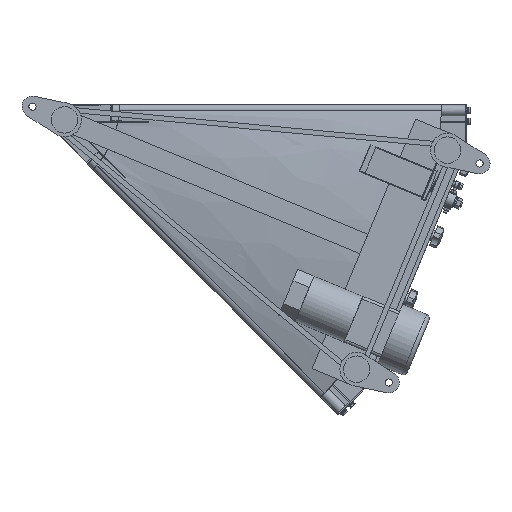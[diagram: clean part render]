
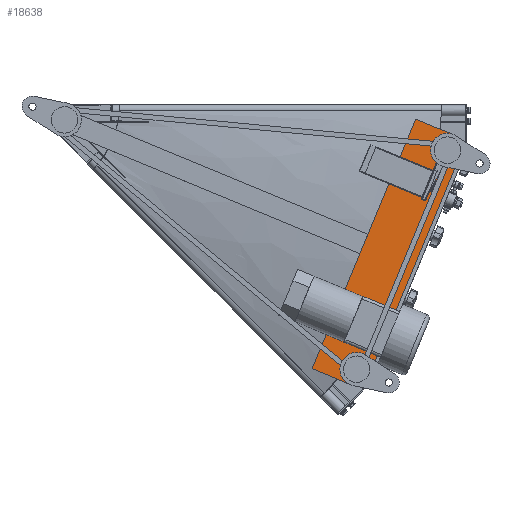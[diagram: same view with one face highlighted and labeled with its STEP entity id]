
A CAD part, front view. The second image highlights one B-rep face of the part: STEP entity #18638.
In plain terms, the highlighted planar face has unit normal (0, -1, 0).
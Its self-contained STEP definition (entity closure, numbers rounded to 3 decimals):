
#230 = CARTESIAN_POINT ( 'NONE',  ( 782.749, -167.5, -91.511 ) ) ;
#690 = DIRECTION ( 'NONE',  ( 0.078, 0., 0.997 ) ) ;
#2079 = VECTOR ( 'NONE', #21899, 1000. ) ;
#2538 = ORIENTED_EDGE ( 'NONE', *, *, #26295, .F. ) ;
#2904 = VECTOR ( 'NONE', #13201, 1000. ) ;
#2914 = DIRECTION ( 'NONE',  ( -0.924, 0., -0.383 ) ) ;
#3130 = ORIENTED_EDGE ( 'NONE', *, *, #16874, .F. ) ;
#3579 = CARTESIAN_POINT ( 'NONE',  ( 782.749, -167.5, -91.511 ) ) ;
#3742 = AXIS2_PLACEMENT_3D ( 'NONE', #28075, #25916, #690 ) ;
#4200 = CARTESIAN_POINT ( 'NONE',  ( 766.513, -167.5, -52.314 ) ) ;
#4903 = VECTOR ( 'NONE', #27172, 1000. ) ;
#6735 = CARTESIAN_POINT ( 'NONE',  ( 514.326, -167.5, -478.227 ) ) ;
#7447 = VERTEX_POINT ( 'NONE', #31757 ) ;
#7615 = PLANE ( 'NONE',  #3742 ) ;
#8625 = VECTOR ( 'NONE', #2914, 1000. ) ;
#10746 = FACE_OUTER_BOUND ( 'NONE', #28760, .T. ) ;
#11209 = LINE ( 'NONE', #23141, #18339 ) ;
#11627 = LINE ( 'NONE', #6735, #4903 ) ;
#12096 = VECTOR ( 'NONE', #25422, 1000. ) ;
#12382 = VERTEX_POINT ( 'NONE', #3579 ) ;
#12949 = EDGE_CURVE ( 'NONE', #30683, #26341, #32516, .T. ) ;
#13080 = CARTESIAN_POINT ( 'NONE',  ( 578.998, -167.5, -505.015 ) ) ;
#13201 = DIRECTION ( 'NONE',  ( -0.924, 0., 0.383 ) ) ;
#13373 = CARTESIAN_POINT ( 'NONE',  ( 701.841, -167.5, -25.526 ) ) ;
#16746 = LINE ( 'NONE', #28350, #2904 ) ;
#16874 = EDGE_CURVE ( 'NONE', #7447, #30683, #11627, .T. ) ;
#16963 = LINE ( 'NONE', #13080, #8625 ) ;
#17407 = ORIENTED_EDGE ( 'NONE', *, *, #12949, .F. ) ;
#18036 = LINE ( 'NONE', #230, #12096 ) ;
#18339 = VECTOR ( 'NONE', #25338, 1000. ) ;
#18638 = ADVANCED_FACE ( 'NONE', ( #10746 ), #7615, .F. ) ;
#19379 = CARTESIAN_POINT ( 'NONE',  ( 701.841, -167.5, -25.526 ) ) ;
#19502 = CARTESIAN_POINT ( 'NONE',  ( 578.998, -167.5, -505.015 ) ) ;
#20281 = CARTESIAN_POINT ( 'NONE',  ( 618.195, -167.5, -488.779 ) ) ;
#20898 = EDGE_CURVE ( 'NONE', #32439, #22909, #16963, .T. ) ;
#21899 = DIRECTION ( 'NONE',  ( 0.924, 0., -0.383 ) ) ;
#22909 = VERTEX_POINT ( 'NONE', #19502 ) ;
#23141 = CARTESIAN_POINT ( 'NONE',  ( 618.195, -167.5, -488.779 ) ) ;
#25338 = DIRECTION ( 'NONE',  ( -0.383, 0., -0.924 ) ) ;
#25422 = DIRECTION ( 'NONE',  ( 0.383, 0., -0.924 ) ) ;
#25619 = EDGE_CURVE ( 'NONE', #26341, #12382, #18036, .T. ) ;
#25916 = DIRECTION ( 'NONE',  ( 0., 1., 0. ) ) ;
#26295 = EDGE_CURVE ( 'NONE', #22909, #7447, #16746, .T. ) ;
#26341 = VERTEX_POINT ( 'NONE', #4200 ) ;
#27172 = DIRECTION ( 'NONE',  ( 0.383, 0., 0.924 ) ) ;
#28069 = ORIENTED_EDGE ( 'NONE', *, *, #25619, .F. ) ;
#28075 = CARTESIAN_POINT ( 'NONE',  ( 13.567, -167.5, -5.62 ) ) ;
#28350 = CARTESIAN_POINT ( 'NONE',  ( 514.326, -167.5, -478.227 ) ) ;
#28760 = EDGE_LOOP ( 'NONE', ( #28069, #17407, #3130, #2538, #30595, #29564 ) ) ;
#29564 = ORIENTED_EDGE ( 'NONE', *, *, #32470, .F. ) ;
#30595 = ORIENTED_EDGE ( 'NONE', *, *, #20898, .F. ) ;
#30683 = VERTEX_POINT ( 'NONE', #13373 ) ;
#31757 = CARTESIAN_POINT ( 'NONE',  ( 514.326, -167.5, -478.227 ) ) ;
#32439 = VERTEX_POINT ( 'NONE', #20281 ) ;
#32470 = EDGE_CURVE ( 'NONE', #12382, #32439, #11209, .T. ) ;
#32516 = LINE ( 'NONE', #19379, #2079 ) ;
